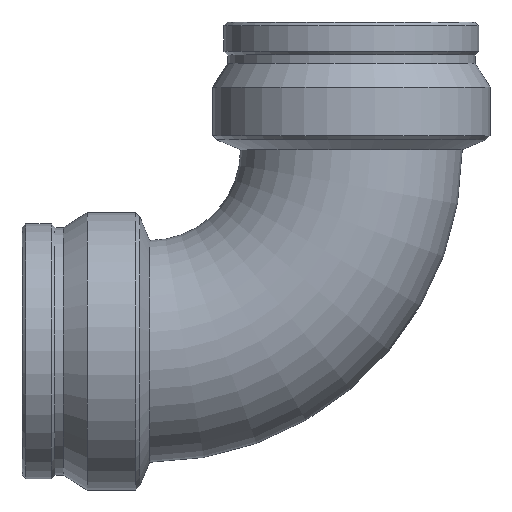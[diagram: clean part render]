
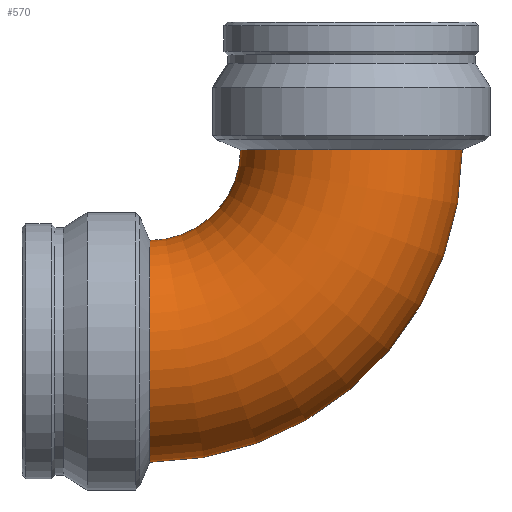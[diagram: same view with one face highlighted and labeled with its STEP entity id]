
A CAD part, front view. The second image highlights one B-rep face of the part: STEP entity #570.
In plain terms, the highlighted toroidal (fillet/blend) face has major radius 214.75 mm and minor radius 118 mm.
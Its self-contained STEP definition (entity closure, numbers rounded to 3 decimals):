
#130=FACE_OUTER_BOUND('',#172,.T.);
#172=EDGE_LOOP('',(#409,#410,#411,#412,#413,#414));
#228=CIRCLE('',#641,118.);
#229=CIRCLE('',#642,118.);
#230=CIRCLE('',#643,96.75);
#231=CIRCLE('',#644,118.);
#232=CIRCLE('',#645,118.);
#275=VERTEX_POINT('',#948);
#276=VERTEX_POINT('',#949);
#277=VERTEX_POINT('',#952);
#278=VERTEX_POINT('',#954);
#326=EDGE_CURVE('',#275,#276,#228,.T.);
#327=EDGE_CURVE('',#276,#275,#229,.T.);
#328=EDGE_CURVE('',#276,#277,#230,.T.);
#329=EDGE_CURVE('',#278,#277,#231,.T.);
#330=EDGE_CURVE('',#277,#278,#232,.T.);
#409=ORIENTED_EDGE('',*,*,#326,.F.);
#410=ORIENTED_EDGE('',*,*,#327,.F.);
#411=ORIENTED_EDGE('',*,*,#328,.T.);
#412=ORIENTED_EDGE('',*,*,#329,.F.);
#413=ORIENTED_EDGE('',*,*,#330,.F.);
#414=ORIENTED_EDGE('',*,*,#328,.F.);
#568=TOROIDAL_SURFACE('',#640,214.75,118.);
#570=ADVANCED_FACE('',(#130),#568,.T.);
#640=AXIS2_PLACEMENT_3D('',#947,#738,#739);
#641=AXIS2_PLACEMENT_3D('',#950,#740,#741);
#642=AXIS2_PLACEMENT_3D('',#951,#742,#743);
#643=AXIS2_PLACEMENT_3D('',#953,#744,#745);
#644=AXIS2_PLACEMENT_3D('',#955,#746,#747);
#645=AXIS2_PLACEMENT_3D('',#956,#748,#749);
#738=DIRECTION('center_axis',(0.,-1.,0.));
#739=DIRECTION('ref_axis',(0.,0.,-1.));
#740=DIRECTION('center_axis',(0.,0.,
1.));
#741=DIRECTION('ref_axis',(0.,-1.,0.));
#742=DIRECTION('center_axis',(0.,0.,
1.));
#743=DIRECTION('ref_axis',(0.,-1.,0.));
#744=DIRECTION('center_axis',(0.,1.,0.));
#745=DIRECTION('ref_axis',(0.,0.,-1.));
#746=DIRECTION('center_axis',(-1.,0.,0.));
#747=DIRECTION('ref_axis',(0.,-1.,0.));
#748=DIRECTION('center_axis',(-1.,0.,0.));
#749=DIRECTION('ref_axis',(0.,-1.,0.));
#947=CARTESIAN_POINT('Origin',(-214.75,0.,214.75));
#948=CARTESIAN_POINT('',(0.,118.,214.75));
#949=CARTESIAN_POINT('',(-118.,0.,214.75));
#950=CARTESIAN_POINT('Origin',(0.,0.,
214.75));
#951=CARTESIAN_POINT('Origin',(0.,0.,
214.75));
#952=CARTESIAN_POINT('',(-214.75,0.,118.));
#953=CARTESIAN_POINT('Origin',(-214.75,0.,214.75));
#954=CARTESIAN_POINT('',(-214.75,118.,0.));
#955=CARTESIAN_POINT('Origin',(-214.75,0.,0.));
#956=CARTESIAN_POINT('Origin',(-214.75,0.,0.));
